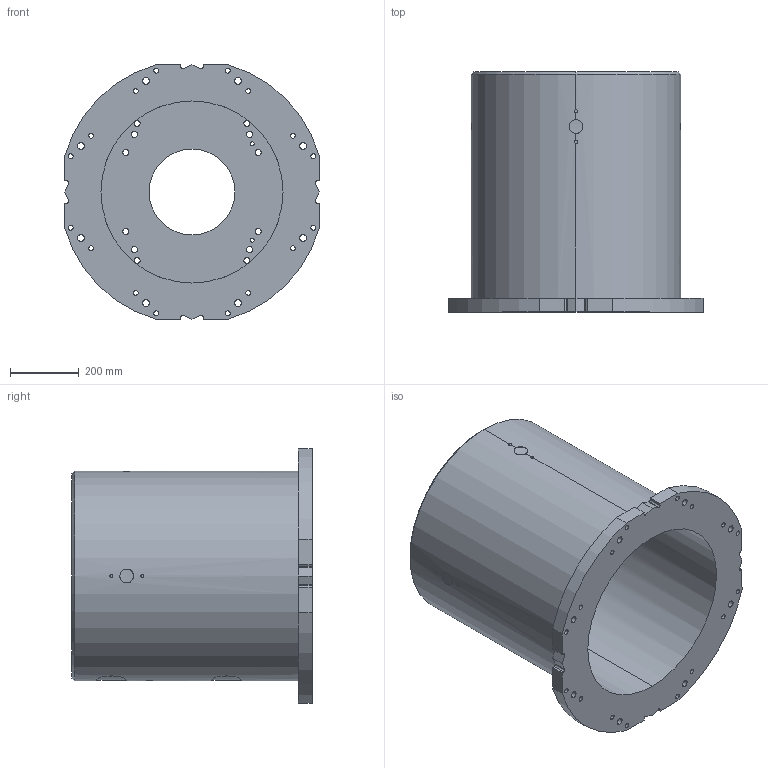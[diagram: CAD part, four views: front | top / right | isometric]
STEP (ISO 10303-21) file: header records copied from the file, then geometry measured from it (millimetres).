
FILE_DESCRIPTION (( 'STEP AP214' ), '1' );
FILE_NAME ('M-700.STEP', '2025-12-09T10:39:18', ( '' ), ( '' ), 'SwSTEP 2.0', 'SolidWorks 2022', '' );
FILE_SCHEMA (( 'AUTOMOTIVE_DESIGN' ));
Length unit declared in the file: millimetre
Products named in the file (1): M-700
Bounding box: 740 x 700 x 740 mm (x, y, z)
Volume: 62595744.4 mm3; surface area: 3365279.3 mm2
Topology: 1 solids, 1 shells, 219 faces, 609 edges, 402 vertices
Faces by surface type: cylinder 161, plane 28, bspline 24, cone 6
Entity records: 12958 total; most frequent: CARTESIAN_POINT 6393, ORIENTED_EDGE 1210, DIRECTION 1049, EDGE_CURVE 605, AXIS2_PLACEMENT_3D 410, VERTEX_POINT 402, EDGE_LOOP 311, VECTOR 229
